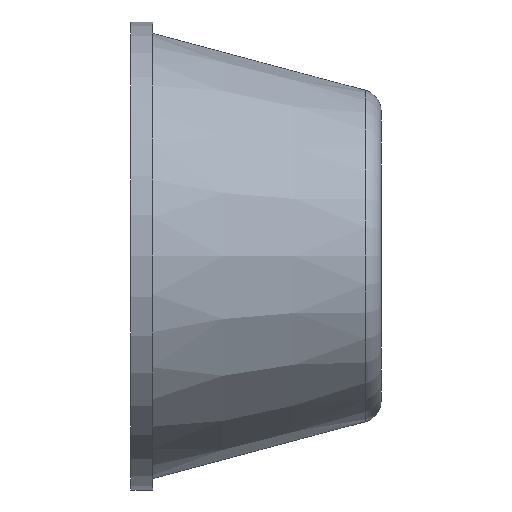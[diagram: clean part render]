
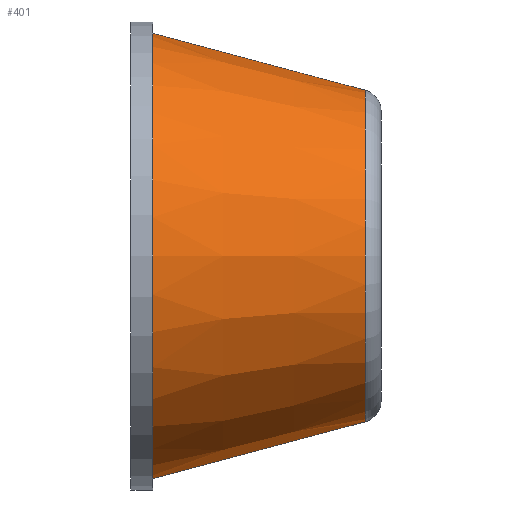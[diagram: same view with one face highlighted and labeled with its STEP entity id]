
A CAD part, left-side view. The second image highlights one B-rep face of the part: STEP entity #401.
In plain terms, the highlighted conical face has half-angle 15 degrees and reference radius 10.5 mm.
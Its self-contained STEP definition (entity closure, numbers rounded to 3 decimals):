
#3 = EDGE_CURVE ( 'NONE', #369, #234, #168, .T. ) ;
#4 = EDGE_CURVE ( 'NONE', #268, #229, #140, .T. ) ;
#9 = EDGE_CURVE ( 'NONE', #268, #369, #144, .T. ) ;
#27 = AXIS2_PLACEMENT_3D ( 'NONE', #278, #280, #282 ) ;
#31 = AXIS2_PLACEMENT_3D ( 'NONE', #224, #225, #226 ) ;
#46 = AXIS2_PLACEMENT_3D ( 'NONE', #238, #237, #236 ) ;
#68 = EDGE_CURVE ( 'NONE', #234, #229, #118, .T. ) ;
#96 = CONICAL_SURFACE ( 'NONE', #27, 10.5, 0.262 ) ;
#118 = CIRCLE ( 'NONE', #31, 10.232 ) ;
#128 = FACE_OUTER_BOUND ( 'NONE', #204, .T. ) ;
#132 = VECTOR ( 'NONE', #351, 1000. ) ;
#140 = LINE ( 'NONE', #372, #132 ) ;
#144 = CIRCLE ( 'NONE', #46, 7.617 ) ;
#168 = LINE ( 'NONE', #230, #174 ) ;
#172 = ORIENTED_EDGE ( 'NONE', *, *, #4, .F. ) ;
#174 = VECTOR ( 'NONE', #363, 1000. ) ;
#204 = EDGE_LOOP ( 'NONE', ( #172, #210, #205, #215 ) ) ;
#205 = ORIENTED_EDGE ( 'NONE', *, *, #3, .T. ) ;
#210 = ORIENTED_EDGE ( 'NONE', *, *, #9, .T. ) ;
#215 = ORIENTED_EDGE ( 'NONE', *, *, #68, .T. ) ;
#222 = CARTESIAN_POINT ( 'NONE',  ( 0., -1., 10.232 ) ) ;
#224 = CARTESIAN_POINT ( 'NONE',  ( 0., -1., 0. ) ) ;
#225 = DIRECTION ( 'NONE',  ( 0., -1., 0. ) ) ;
#226 = DIRECTION ( 'NONE',  ( 0., 0., 1. ) ) ;
#227 = CARTESIAN_POINT ( 'NONE',  ( 0., -1., -10.232 ) ) ;
#229 = VERTEX_POINT ( 'NONE', #227 ) ;
#230 = CARTESIAN_POINT ( 'NONE',  ( 0., 0., 10.5 ) ) ;
#234 = VERTEX_POINT ( 'NONE', #222 ) ;
#236 = DIRECTION ( 'NONE',  ( 0., 0., 1. ) ) ;
#237 = DIRECTION ( 'NONE',  ( 0., 1., 0. ) ) ;
#238 = CARTESIAN_POINT ( 'NONE',  ( 0., -10.759, 0. ) ) ;
#245 = CARTESIAN_POINT ( 'NONE',  ( 0., -10.759, -7.617 ) ) ;
#256 = CARTESIAN_POINT ( 'NONE',  ( 0., -10.759, 7.617 ) ) ;
#268 = VERTEX_POINT ( 'NONE', #245 ) ;
#278 = CARTESIAN_POINT ( 'NONE',  ( 0., 0., 0. ) ) ;
#280 = DIRECTION ( 'NONE',  ( 0., 1., 0. ) ) ;
#282 = DIRECTION ( 'NONE',  ( 0., 0., 1. ) ) ;
#351 = DIRECTION ( 'NONE',  ( 0., 0.966, -0.259 ) ) ;
#363 = DIRECTION ( 'NONE',  ( 0., 0.966, 0.259 ) ) ;
#369 = VERTEX_POINT ( 'NONE', #256 ) ;
#372 = CARTESIAN_POINT ( 'NONE',  ( 0., 0., -10.5 ) ) ;
#401 = ADVANCED_FACE ( 'NONE', ( #128 ), #96, .T. ) ;
